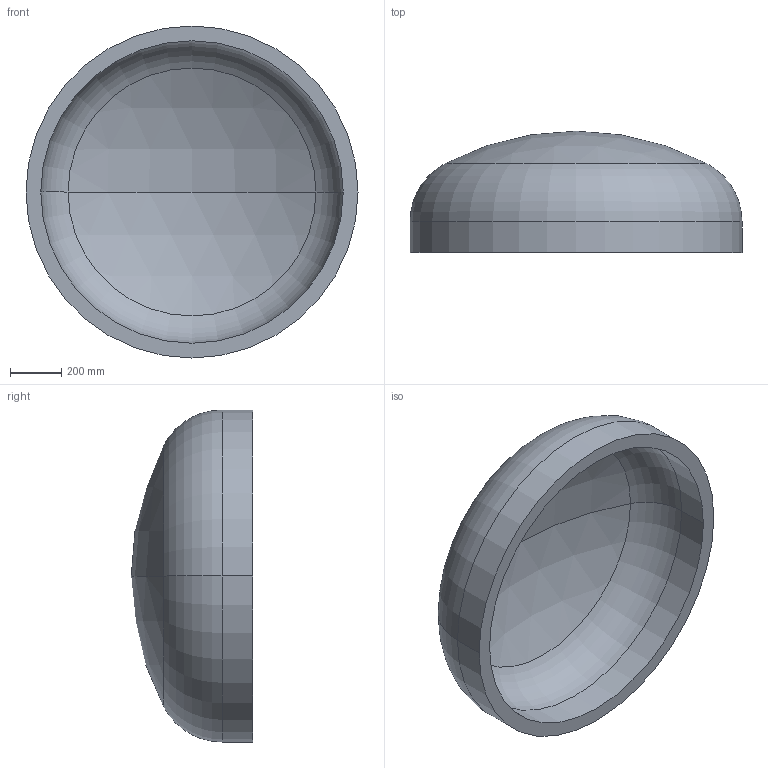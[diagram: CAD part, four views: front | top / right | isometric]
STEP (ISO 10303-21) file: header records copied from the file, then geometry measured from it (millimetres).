
FILE_DESCRIPTION (( 'STEP AP203' ), '1' );
FILE_NAME ('DIN 28013 Korbbogenform_-_Boden DIN 28013 - 1300 x 120 - I - s=58.step', '2016-07-01T09:55:49', ( '' ), ( '' ), 'SwSTEP 2.0', 'SolidWorks 2013', '' );
FILE_SCHEMA (( 'CONFIG_CONTROL_DESIGN' ));
Length unit declared in the file: millimetre
Products named in the file (1): DIN 28013 Korbbogenform_-_Boden DIN 28013 - 1300 x 120 - I - s=58
Bounding box: 1300 x 475.08 x 1300 mm (x, y, z)
Volume: 127792530.5 mm3; surface area: 4639991.2 mm2
Topology: 1 solids, 1 shells, 13 faces, 24 edges, 14 vertices
Faces by surface type: torus 4, cylinder 4, sphere 4, plane 1
Entity records: 407 total; most frequent: DIRECTION 72, CARTESIAN_POINT 52, ORIENTED_EDGE 48, AXIS2_PLACEMENT_3D 34, EDGE_CURVE 24, CIRCLE 20, EDGE_LOOP 14, VERTEX_POINT 14
